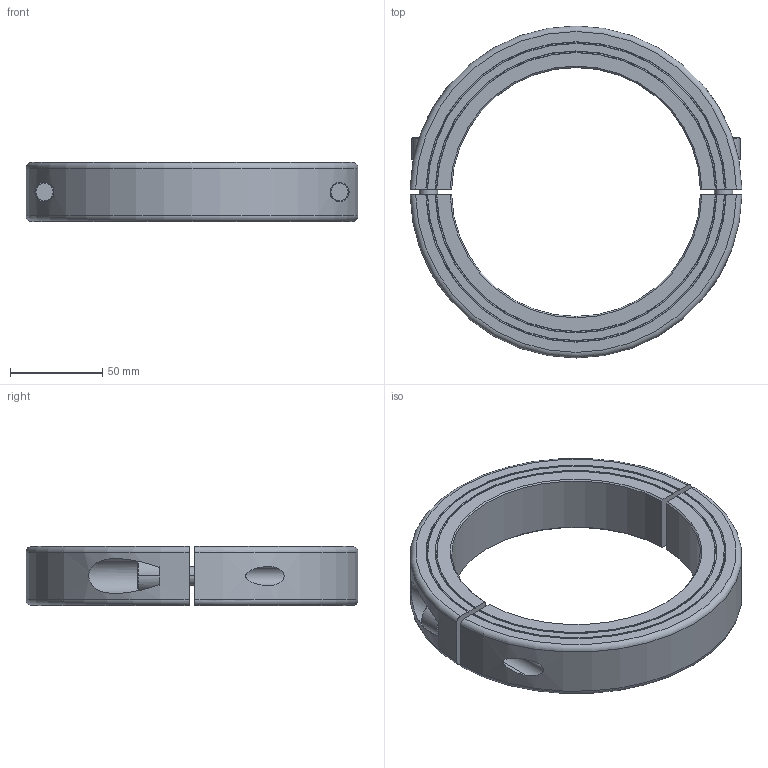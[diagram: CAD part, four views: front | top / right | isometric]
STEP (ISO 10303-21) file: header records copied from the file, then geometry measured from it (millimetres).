
FILE_DESCRIPTION((''),'2;1');
FILE_NAME('MSPH-135-F','2016-09-09T',('SYSTEM'),(''),'PRO/ENGINEER BY PARAMETRIC TECHNOLOGY CORPORATION, 2015110','PRO/ENGINEER BY PARAMETRIC TECHNOLOGY CORPORATION, 2015110','');
FILE_SCHEMA(('AUTOMOTIVE_DESIGN { 1 0 10303 214 1 1 1 1 }'));
Length unit declared in the file: millimetre
Products named in the file (1): MSPH-135-F
Bounding box: 179.97 x 180 x 32 mm (x, y, z)
Volume: 337049.2 mm3; surface area: 63873.5 mm2
Topology: 2 solids, 2 shells, 90 faces, 222 edges, 144 vertices
Faces by surface type: plane 36, cylinder 26, cone 20, torus 8
Entity records: 3543 total; most frequent: CARTESIAN_POINT 738, ORIENTED_EDGE 444, DIRECTION 430, EDGE_CURVE 222, AXIS2_PLACEMENT_3D 168, VERTEX_POINT 144, EDGE_LOOP 102, VECTOR 94
